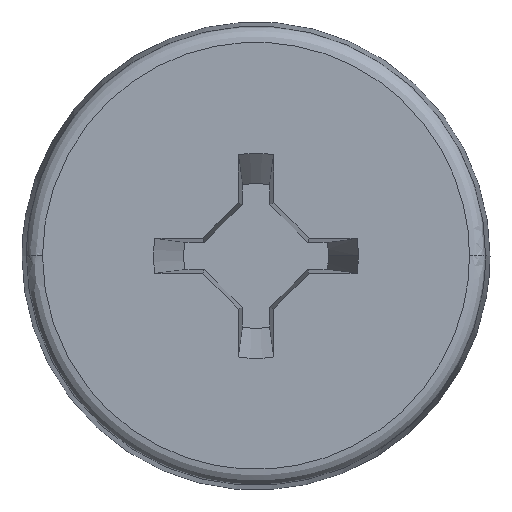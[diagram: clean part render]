
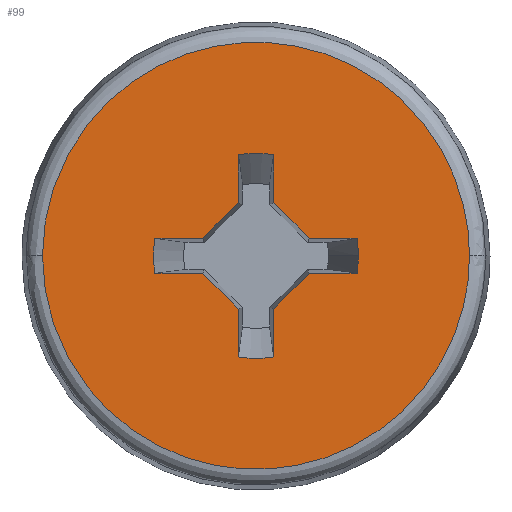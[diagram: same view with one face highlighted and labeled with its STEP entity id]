
A CAD part, top view. The second image highlights one B-rep face of the part: STEP entity #99.
In plain terms, the highlighted planar face has unit normal (0, 0, 1).
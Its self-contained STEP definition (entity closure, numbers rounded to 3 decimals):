
#25=FACE_BOUND('',#285,.T.);
#99=ADVANCED_FACE('',(#191,#25),#1523,.T.);
#191=FACE_OUTER_BOUND('',#284,.T.);
#284=EDGE_LOOP('',(#722,#723));
#285=EDGE_LOOP('',(#724,#725,#726,#727,#728,#729,#730,#731,#732,#733,#734,
#735,#736,#737,#738,#739,#740));
#722=ORIENTED_EDGE('',*,*,#1027,.F.);
#723=ORIENTED_EDGE('',*,*,#1086,.T.);
#724=ORIENTED_EDGE('',*,*,#1032,.T.);
#725=ORIENTED_EDGE('',*,*,#1058,.T.);
#726=ORIENTED_EDGE('',*,*,#1039,.T.);
#727=ORIENTED_EDGE('',*,*,#1067,.T.);
#728=ORIENTED_EDGE('',*,*,#1040,.T.);
#729=ORIENTED_EDGE('',*,*,#1071,.T.);
#730=ORIENTED_EDGE('',*,*,#1041,.T.);
#731=ORIENTED_EDGE('',*,*,#1075,.T.);
#732=ORIENTED_EDGE('',*,*,#1042,.T.);
#733=ORIENTED_EDGE('',*,*,#1079,.T.);
#734=ORIENTED_EDGE('',*,*,#1043,.T.);
#735=ORIENTED_EDGE('',*,*,#1083,.T.);
#736=ORIENTED_EDGE('',*,*,#1044,.T.);
#737=ORIENTED_EDGE('',*,*,#1047,.T.);
#738=ORIENTED_EDGE('',*,*,#1045,.T.);
#739=ORIENTED_EDGE('',*,*,#1053,.T.);
#740=ORIENTED_EDGE('',*,*,#1046,.T.);
#1027=EDGE_CURVE('',#1482,#1483,#1217,.T.);
#1032=EDGE_CURVE('',#1488,#1487,#1221,.T.);
#1039=EDGE_CURVE('',#1491,#1492,#1309,.T.);
#1040=EDGE_CURVE('',#1493,#1494,#1310,.T.);
#1041=EDGE_CURVE('',#1495,#1496,#1311,.T.);
#1042=EDGE_CURVE('',#1497,#1498,#1312,.T.);
#1043=EDGE_CURVE('',#1499,#1500,#1313,.T.);
#1044=EDGE_CURVE('',#1501,#1502,#1314,.T.);
#1045=EDGE_CURVE('',#1503,#1504,#1315,.T.);
#1046=EDGE_CURVE('',#1505,#1488,#1316,.T.);
#1047=EDGE_CURVE('',#1502,#1503,#1225,.T.);
#1053=EDGE_CURVE('',#1504,#1505,#1321,.T.);
#1058=EDGE_CURVE('',#1487,#1491,#1228,.T.);
#1067=EDGE_CURVE('',#1492,#1493,#1333,.T.);
#1071=EDGE_CURVE('',#1494,#1495,#1229,.T.);
#1075=EDGE_CURVE('',#1496,#1497,#1339,.T.);
#1079=EDGE_CURVE('',#1498,#1499,#1231,.T.);
#1083=EDGE_CURVE('',#1500,#1501,#1345,.T.);
#1086=EDGE_CURVE('',#1482,#1483,#1233,.T.);
#1217=(
BOUNDED_CURVE()
B_SPLINE_CURVE(2,(#5500,#5501,#5502,#5503,#5504),.UNSPECIFIED.,.F.,.F.)
B_SPLINE_CURVE_WITH_KNOTS((3,2,3),(0.,0.314,0.627),
 .UNSPECIFIED.)
CURVE()
GEOMETRIC_REPRESENTATION_ITEM()
RATIONAL_B_SPLINE_CURVE((1.,0.707,1.,0.707,1.))
REPRESENTATION_ITEM('')
);
#1221=(
BOUNDED_CURVE()
B_SPLINE_CURVE(2,(#5518,#5519,#5520),.UNSPECIFIED.,.F.,.F.)
B_SPLINE_CURVE_WITH_KNOTS((3,3),(-0.017,0.),.UNSPECIFIED.)
CURVE()
GEOMETRIC_REPRESENTATION_ITEM()
RATIONAL_B_SPLINE_CURVE((1.,0.996,1.))
REPRESENTATION_ITEM('')
);
#1225=(
BOUNDED_CURVE()
B_SPLINE_CURVE(2,(#5560,#5561,#5562),.UNSPECIFIED.,.F.,.F.)
B_SPLINE_CURVE_WITH_KNOTS((3,3),(-0.033,0.),.UNSPECIFIED.)
CURVE()
GEOMETRIC_REPRESENTATION_ITEM()
RATIONAL_B_SPLINE_CURVE((1.,0.985,1.))
REPRESENTATION_ITEM('')
);
#1228=(
BOUNDED_CURVE()
B_SPLINE_CURVE(2,(#5589,#5590,#5591),.UNSPECIFIED.,.F.,.F.)
B_SPLINE_CURVE_WITH_KNOTS((3,3),(-0.017,0.),.UNSPECIFIED.)
CURVE()
GEOMETRIC_REPRESENTATION_ITEM()
RATIONAL_B_SPLINE_CURVE((1.,0.996,1.))
REPRESENTATION_ITEM('')
);
#1229=(
BOUNDED_CURVE()
B_SPLINE_CURVE(2,(#5620,#5621,#5622),.UNSPECIFIED.,.F.,.F.)
B_SPLINE_CURVE_WITH_KNOTS((3,3),(-0.033,0.),.UNSPECIFIED.)
CURVE()
GEOMETRIC_REPRESENTATION_ITEM()
RATIONAL_B_SPLINE_CURVE((1.,0.985,1.))
REPRESENTATION_ITEM('')
);
#1231=(
BOUNDED_CURVE()
B_SPLINE_CURVE(2,(#5642,#5643,#5644),.UNSPECIFIED.,.F.,.F.)
B_SPLINE_CURVE_WITH_KNOTS((3,3),(-0.033,0.),.UNSPECIFIED.)
CURVE()
GEOMETRIC_REPRESENTATION_ITEM()
RATIONAL_B_SPLINE_CURVE((1.,0.985,1.))
REPRESENTATION_ITEM('')
);
#1233=(
BOUNDED_CURVE()
B_SPLINE_CURVE(2,(#5660,#5661,#5662,#5663,#5664),.UNSPECIFIED.,.F.,.F.)
B_SPLINE_CURVE_WITH_KNOTS((3,2,3),(0.,0.314,0.627),
 .UNSPECIFIED.)
CURVE()
GEOMETRIC_REPRESENTATION_ITEM()
RATIONAL_B_SPLINE_CURVE((1.,0.707,1.,0.707,1.))
REPRESENTATION_ITEM('')
);
#1309=B_SPLINE_CURVE_WITH_KNOTS('',1,(#5544,#5545),.UNSPECIFIED.,.F.,.F.,
(2,2),(0.,0.045),.UNSPECIFIED.);
#1310=B_SPLINE_CURVE_WITH_KNOTS('',1,(#5546,#5547),.UNSPECIFIED.,.F.,.F.,
(2,2),(0.,0.045),.UNSPECIFIED.);
#1311=B_SPLINE_CURVE_WITH_KNOTS('',1,(#5548,#5549),.UNSPECIFIED.,.F.,.F.,
(2,2),(0.,0.045),.UNSPECIFIED.);
#1312=B_SPLINE_CURVE_WITH_KNOTS('',1,(#5550,#5551),.UNSPECIFIED.,.F.,.F.,
(2,2),(0.,0.045),.UNSPECIFIED.);
#1313=B_SPLINE_CURVE_WITH_KNOTS('',1,(#5552,#5553),.UNSPECIFIED.,.F.,.F.,
(2,2),(0.,0.045),.UNSPECIFIED.);
#1314=B_SPLINE_CURVE_WITH_KNOTS('',1,(#5554,#5555),.UNSPECIFIED.,.F.,.F.,
(2,2),(0.,0.045),.UNSPECIFIED.);
#1315=B_SPLINE_CURVE_WITH_KNOTS('',1,(#5556,#5557),.UNSPECIFIED.,.F.,.F.,
(2,2),(0.,0.045),.UNSPECIFIED.);
#1316=B_SPLINE_CURVE_WITH_KNOTS('',1,(#5558,#5559),.UNSPECIFIED.,.F.,.F.,
(2,2),(0.,0.045),.UNSPECIFIED.);
#1321=B_SPLINE_CURVE_WITH_KNOTS('',1,(#5578,#5579),.UNSPECIFIED.,.F.,.F.,
(2,2),(-0.047,0.),.UNSPECIFIED.);
#1333=B_SPLINE_CURVE_WITH_KNOTS('',1,(#5610,#5611),.UNSPECIFIED.,.F.,.F.,
(2,2),(-0.047,0.),.UNSPECIFIED.);
#1339=B_SPLINE_CURVE_WITH_KNOTS('',1,(#5632,#5633),.UNSPECIFIED.,.F.,.F.,
(2,2),(-0.047,0.),.UNSPECIFIED.);
#1345=B_SPLINE_CURVE_WITH_KNOTS('',1,(#5654,#5655),.UNSPECIFIED.,.F.,.F.,
(2,2),(-0.047,0.),.UNSPECIFIED.);
#1482=VERTEX_POINT('',#4147);
#1483=VERTEX_POINT('',#4148);
#1487=VERTEX_POINT('',#4152);
#1488=VERTEX_POINT('',#4153);
#1491=VERTEX_POINT('',#4156);
#1492=VERTEX_POINT('',#4157);
#1493=VERTEX_POINT('',#4158);
#1494=VERTEX_POINT('',#4159);
#1495=VERTEX_POINT('',#4160);
#1496=VERTEX_POINT('',#4161);
#1497=VERTEX_POINT('',#4162);
#1498=VERTEX_POINT('',#4163);
#1499=VERTEX_POINT('',#4164);
#1500=VERTEX_POINT('',#4165);
#1501=VERTEX_POINT('',#4166);
#1502=VERTEX_POINT('',#4167);
#1503=VERTEX_POINT('',#4168);
#1504=VERTEX_POINT('',#4169);
#1505=VERTEX_POINT('',#4170);
#1523=PLANE('',#1635);
#1635=AXIS2_PLACEMENT_3D('',#3846,#1654,$);
#1654=DIRECTION('',(0.,0.,1.));
#3846=CARTESIAN_POINT('',(21.469,-8.531,0.953));
#4147=CARTESIAN_POINT('',(27.972,0.,0.953));
#4148=CARTESIAN_POINT('',(32.028,0.,0.952));
#4152=CARTESIAN_POINT('',(30.975,0.,0.953));
#4153=CARTESIAN_POINT('',(30.96,0.167,0.953));
#4156=CARTESIAN_POINT('',(30.96,-0.167,0.953));
#4157=CARTESIAN_POINT('',(30.506,-0.167,0.953));
#4158=CARTESIAN_POINT('',(30.167,-0.506,0.953));
#4159=CARTESIAN_POINT('',(30.167,-0.96,0.953));
#4160=CARTESIAN_POINT('',(29.833,-0.96,0.953));
#4161=CARTESIAN_POINT('',(29.833,-0.506,0.953));
#4162=CARTESIAN_POINT('',(29.494,-0.167,0.953));
#4163=CARTESIAN_POINT('',(29.04,-0.167,0.953));
#4164=CARTESIAN_POINT('',(29.04,0.167,0.953));
#4165=CARTESIAN_POINT('',(29.494,0.167,0.953));
#4166=CARTESIAN_POINT('',(29.833,0.506,0.953));
#4167=CARTESIAN_POINT('',(29.833,0.96,0.953));
#4168=CARTESIAN_POINT('',(30.167,0.96,0.953));
#4169=CARTESIAN_POINT('',(30.167,0.506,0.953));
#4170=CARTESIAN_POINT('',(30.506,0.167,0.953));
#5500=CARTESIAN_POINT('',(27.972,0.,0.953));
#5501=CARTESIAN_POINT('',(27.972,2.028,0.953));
#5502=CARTESIAN_POINT('',(30.,2.028,0.953));
#5503=CARTESIAN_POINT('',(32.028,2.028,0.953));
#5504=CARTESIAN_POINT('',(32.028,0.,0.953));
#5518=CARTESIAN_POINT('',(30.96,0.167,0.953));
#5519=CARTESIAN_POINT('',(30.975,0.084,0.953));
#5520=CARTESIAN_POINT('',(30.975,0.,0.953));
#5544=CARTESIAN_POINT('',(30.96,-0.167,0.953));
#5545=CARTESIAN_POINT('',(30.506,-0.167,0.953));
#5546=CARTESIAN_POINT('',(30.167,-0.506,0.953));
#5547=CARTESIAN_POINT('',(30.167,-0.96,0.953));
#5548=CARTESIAN_POINT('',(29.833,-0.96,0.953));
#5549=CARTESIAN_POINT('',(29.833,-0.506,0.953));
#5550=CARTESIAN_POINT('',(29.494,-0.167,0.953));
#5551=CARTESIAN_POINT('',(29.04,-0.167,0.953));
#5552=CARTESIAN_POINT('',(29.04,0.167,0.953));
#5553=CARTESIAN_POINT('',(29.494,0.167,0.953));
#5554=CARTESIAN_POINT('',(29.833,0.506,0.953));
#5555=CARTESIAN_POINT('',(29.833,0.96,0.953));
#5556=CARTESIAN_POINT('',(30.167,0.96,0.953));
#5557=CARTESIAN_POINT('',(30.167,0.506,0.953));
#5558=CARTESIAN_POINT('',(30.506,0.167,0.953));
#5559=CARTESIAN_POINT('',(30.96,0.167,0.953));
#5560=CARTESIAN_POINT('',(29.833,0.96,0.953));
#5561=CARTESIAN_POINT('',(30.,0.99,0.953));
#5562=CARTESIAN_POINT('',(30.167,0.96,0.953));
#5578=CARTESIAN_POINT('',(30.167,0.506,0.953));
#5579=CARTESIAN_POINT('',(30.506,0.167,0.953));
#5589=CARTESIAN_POINT('',(30.975,0.,0.953));
#5590=CARTESIAN_POINT('',(30.975,-0.084,0.953));
#5591=CARTESIAN_POINT('',(30.96,-0.167,0.953));
#5610=CARTESIAN_POINT('',(30.506,-0.167,0.953));
#5611=CARTESIAN_POINT('',(30.167,-0.506,0.953));
#5620=CARTESIAN_POINT('',(30.167,-0.96,0.953));
#5621=CARTESIAN_POINT('',(30.,-0.99,0.953));
#5622=CARTESIAN_POINT('',(29.833,-0.96,0.953));
#5632=CARTESIAN_POINT('',(29.833,-0.506,0.953));
#5633=CARTESIAN_POINT('',(29.494,-0.167,0.953));
#5642=CARTESIAN_POINT('',(29.04,-0.167,0.953));
#5643=CARTESIAN_POINT('',(29.01,0.,0.953));
#5644=CARTESIAN_POINT('',(29.04,0.167,0.953));
#5654=CARTESIAN_POINT('',(29.494,0.167,0.953));
#5655=CARTESIAN_POINT('',(29.833,0.506,0.953));
#5660=CARTESIAN_POINT('',(27.972,0.,0.953));
#5661=CARTESIAN_POINT('',(27.972,-2.028,0.953));
#5662=CARTESIAN_POINT('',(30.,-2.028,0.953));
#5663=CARTESIAN_POINT('',(32.028,-2.028,0.953));
#5664=CARTESIAN_POINT('',(32.028,0.,0.953));
